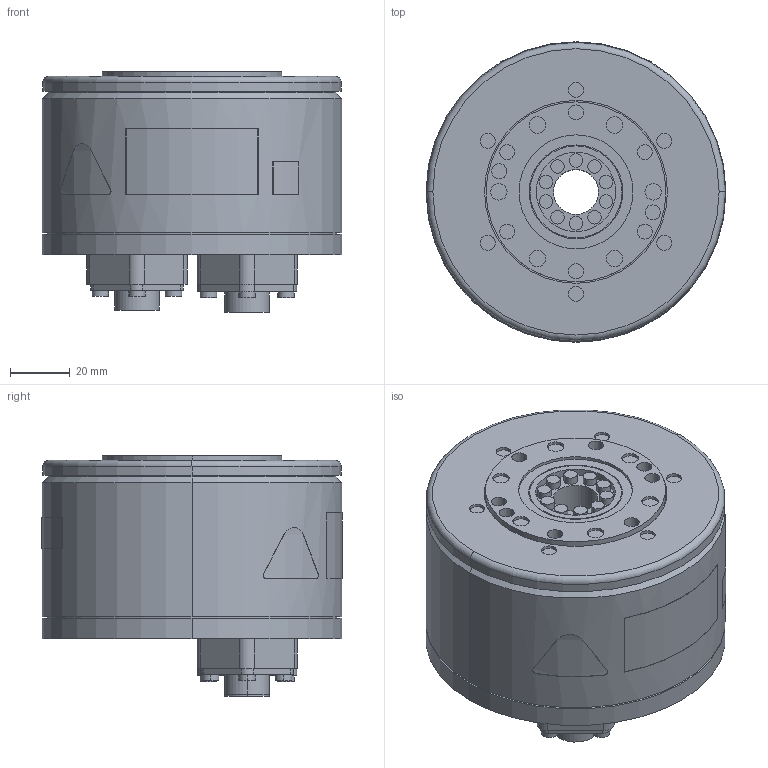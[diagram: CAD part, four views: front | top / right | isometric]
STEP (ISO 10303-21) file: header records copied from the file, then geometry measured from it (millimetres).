
FILE_DESCRIPTION (( 'STEP AP203' ), '1' );
FILE_NAME ('sgm7f_02a_a1_.STEP', '2016-08-04T02:46:18', ( '' ), ( '' ), 'SwSTEP 2.0', 'SolidWorks 2010', '' );
FILE_SCHEMA (( 'CONFIG_CONTROL_DESIGN' ));
Length unit declared in the file: millimetre
Products named in the file (1): sgm7f_02a_a1_
Bounding box: 100 x 100.2 x 80.1 mm (x, y, z)
Volume: 471713.2 mm3; surface area: 45424.7 mm2
Topology: 1 solids, 1 shells, 348 faces, 769 edges, 510 vertices
Faces by surface type: cylinder 191, plane 146, bspline 5, cone 4, torus 2
Entity records: 10058 total; most frequent: CARTESIAN_POINT 1885, DIRECTION 1847, ORIENTED_EDGE 1538, EDGE_CURVE 769, AXIS2_PLACEMENT_3D 750, VERTEX_POINT 510, EDGE_LOOP 437, CIRCLE 406
